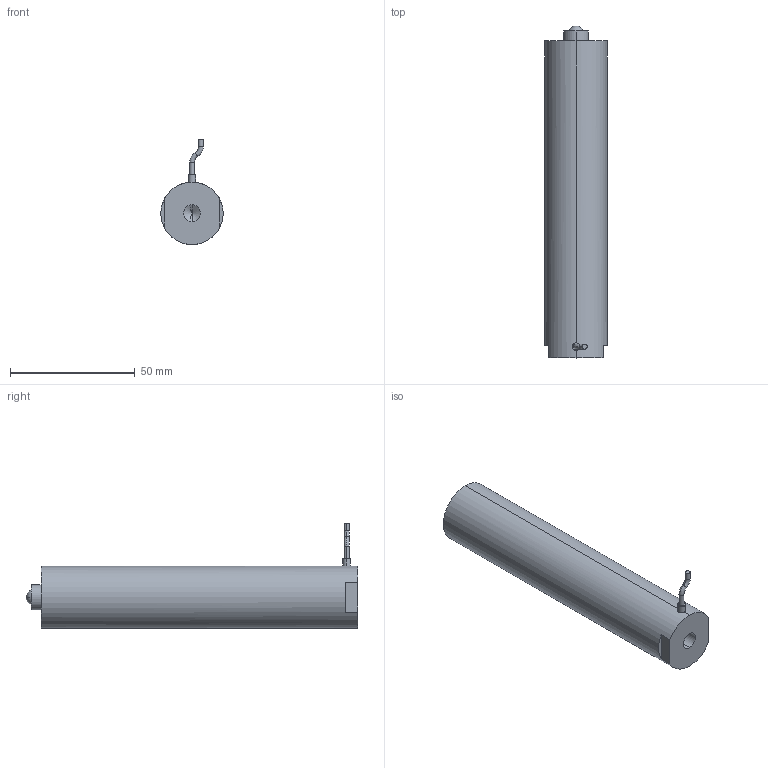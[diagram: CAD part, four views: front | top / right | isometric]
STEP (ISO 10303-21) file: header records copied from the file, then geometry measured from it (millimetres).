
FILE_DESCRIPTION (( 'STEP AP203' ), '1' );
FILE_NAME ('球头式120VS25.STEP', '2021-07-08T07:54:56', ( '微软用户' ), ( '微软公司' ), 'SwSTEP 2.0', 'SolidWorks 2016', '' );
FILE_SCHEMA (( 'CONFIG_CONTROL_DESIGN' ));
Products named in the file (1): ⑩芛宒120VS25
Bounding box: 25 x 133 x 42.06 mm (x, y, z)
Volume: 62218.4 mm3; surface area: 11454.4 mm2
Topology: 1 solids, 1 shells, 943 faces, 2558 edges, 1700 vertices
Faces by surface type: bspline 517, plane 315, cylinder 103, torus 4, sphere 2, cone 2
Entity records: 44680 total; most frequent: CARTESIAN_POINT 25504, ORIENTED_EDGE 5104, EDGE_CURVE 2552, DIRECTION 1976, B_SPLINE_CURVE_WITH_KNOTS 1712, VERTEX_POINT 1698, EDGE_LOOP 1030, FACE_OUTER_BOUND 943
